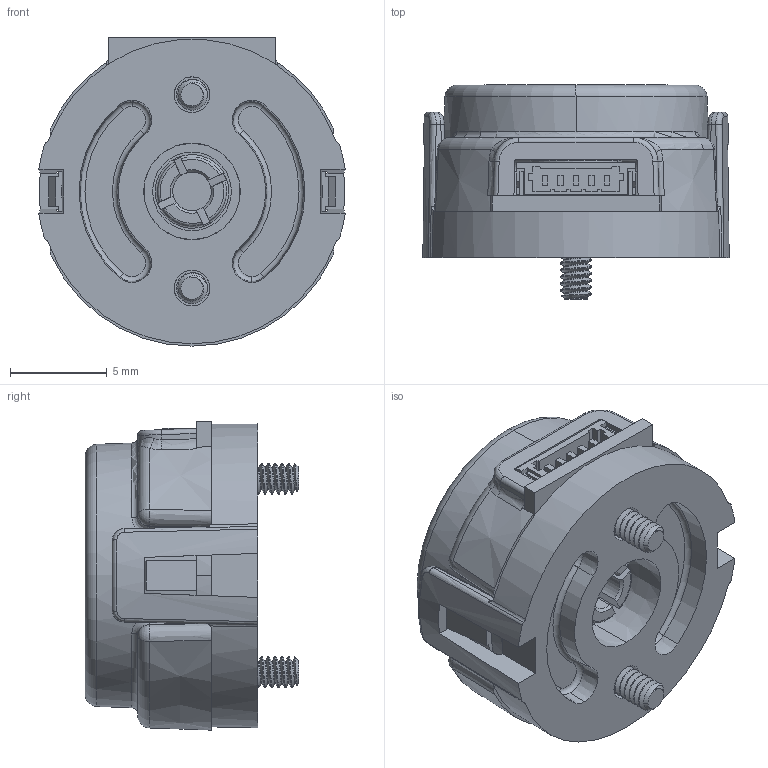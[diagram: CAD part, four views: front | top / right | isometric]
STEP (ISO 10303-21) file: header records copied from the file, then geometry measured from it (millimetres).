
FILE_DESCRIPTION(('FreeCAD Model'),'2;1');
FILE_NAME('Open CASCADE Shape Model','2023-09-07T12:21:23',(''),(''), 'Open CASCADE STEP processor 7.6','FreeCAD','Unknown');
FILE_SCHEMA(('AUTOMOTIVE_DESIGN { 1 0 10303 214 1 1 1 1 }'));
Length unit declared in the file: millimetre
Products named in the file (1): Fusion008
Bounding box: 15.84 x 11.05 x 15.94 mm (x, y, z)
Volume: 936.8 mm3; surface area: 2109.3 mm2
Topology: 3 solids, 7 shells, 2416 faces, 6160 edges, 4058 vertices
Faces by surface type: plane 1857, bspline 270, cylinder 155, cone 65, torus 61, sphere 8
Entity records: 105685 total; most frequent: CARTESIAN_POINT 32530, ORIENTED_EDGE 12308, DIRECTION 10060, EDGE_CURVE 6154, LINE 4778, VECTOR 4778, VERTEX_POINT 4058, FACE_BOUND 2750
